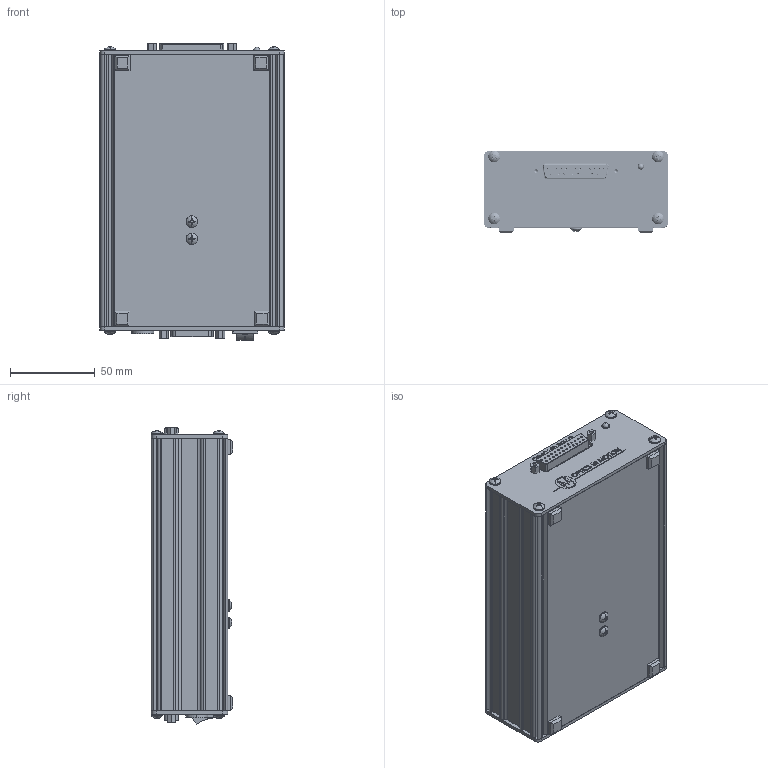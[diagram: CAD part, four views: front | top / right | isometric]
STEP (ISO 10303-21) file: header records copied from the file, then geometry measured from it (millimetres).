
FILE_DESCRIPTION (( 'STEP AP203' ), '1' );
FILE_NAME ('OIMC100 REV D, ANALOG CONTROLLER.STEP', '2025-05-24T00:07:09', ( '' ), ( '' ), 'SwSTEP 2.0', 'SolidWorks 2017', '' );
FILE_SCHEMA (( 'CONFIG_CONTROL_DESIGN' ));
Length unit declared in the file: inch
Products named in the file (20): Simple Box Enclosure Current PCB; Rear B3-160 End Plate; 91249A144_Black-Oxide 18-8 Stainless Steel Pan Head Phillips Screws_91249A144; Simple Box SurfaceMtPID; Jack Screw digikey pn 7233K-nd_short; 182-015-213; new heatsink; DSUB-25_Socket_Horizontal_P2.77x2.84mm_EdgePinOffset7.70mm_Housed__MountingHolesOffset9.12mm; B3-160 Extrusion; 141_RA1113xxx1; Front B3-160 End Plate; Current PCB_PCB; Rubber foot; OIMC100 REV D, ANALOG CONTROLLER; Box new heatsink; OIM9120 REV A, Heatsink Block; Panel LED; Boz SurfaceMtPID_PCB; 91249A144_Black-Oxide 18-8 Stainless Steel Pan Head Phillips Screws(1)_91249A144; KPJX-4S-S
Assembly tree (33 placements, depth 3):
  OIMC100 REV D, ANALOG CONTROLLER
    Rear B3-160 End Plate
    B3-160 Extrusion
    Simple Box SurfaceMtPID
      DSUB-25_Socket_Horizontal_P2.77x2.84mm_EdgePinOffset7.70mm_Housed__MountingHolesOffset9.12mm
      Boz SurfaceMtPID_PCB
    141_RA1113xxx1
    Box new heatsink
    Front B3-160 End Plate
    Panel LED
    Jack Screw digikey pn 7233K-nd_short  x4
    Rubber foot  x4
    91249A144_Black-Oxide 18-8 Stainless Steel Pan Head Phillips Screws_91249A144  x8
    Simple Box Enclosure Current PCB
      KPJX-4S-S
      182-015-213
      Current PCB_PCB
    91249A144_Black-Oxide 18-8 Stainless Steel Pan Head Phillips Screws(1)_91249A144  x2
    new heatsink
    OIM9120 REV A, Heatsink Block
Bounding box: 108.52 x 48.18 x 174.83 mm (x, y, z)
Volume: 175178.7 mm3; surface area: 188399.7 mm2
Topology: 40 solids, 55 shells, 3775 faces, 10341 edges, 6844 vertices
Faces by surface type: plane 1740, cylinder 1380, bspline 330, cone 240, torus 64, sphere 21
Entity records: 115452 total; most frequent: CARTESIAN_POINT 35256, ORIENTED_EDGE 16653, DIRECTION 15233, EDGE_CURVE 8347, VERTEX_POINT 5560, AXIS2_PLACEMENT_3D 5162, VECTOR 4909, LINE 4909
